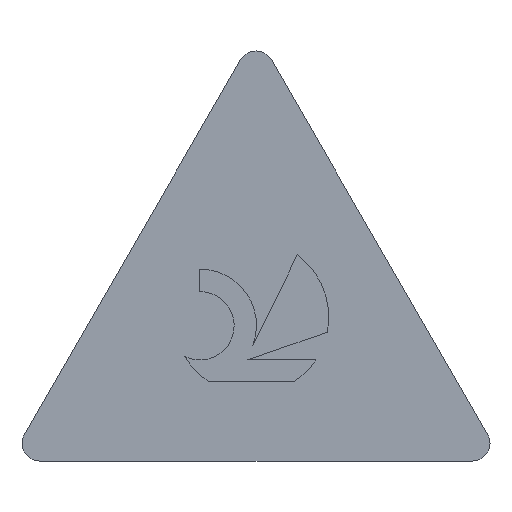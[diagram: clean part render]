
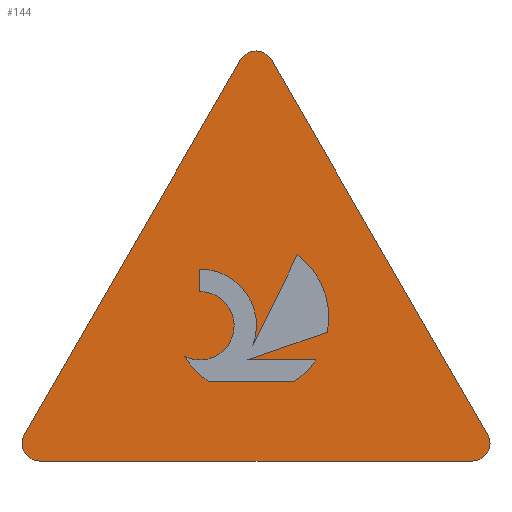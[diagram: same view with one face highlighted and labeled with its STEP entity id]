
A CAD part, top view. The second image highlights one B-rep face of the part: STEP entity #144.
In plain terms, the highlighted planar face has unit normal (0, 0, 1).
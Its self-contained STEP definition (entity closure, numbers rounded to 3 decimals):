
#134=VERTEX_POINT('',#362);
#138=EDGE_CURVE('',#184,#134,#366,.T.);
#144=ADVANCED_FACE('',(#372,#373),#374,.T.);
#156=EDGE_CURVE('',#336,#218,#386,.T.);
#158=VERTEX_POINT('',#388);
#162=VERTEX_POINT('',#393);
#170=VERTEX_POINT('',#402);
#172=VERTEX_POINT('',#404);
#176=EDGE_CURVE('',#314,#250,#408,.T.);
#180=VERTEX_POINT('',#412);
#182=EDGE_CURVE('',#250,#318,#414,.T.);
#184=VERTEX_POINT('',#416);
#200=EDGE_CURVE('',#218,#172,#434,.T.);
#204=EDGE_CURVE('',#162,#158,#438,.T.);
#206=EDGE_CURVE('',#238,#170,#440,.T.);
#210=EDGE_CURVE('',#318,#162,#444,.T.);
#212=EDGE_CURVE('',#172,#272,#446,.T.);
#216=EDGE_CURVE('',#158,#326,#450,.T.);
#218=VERTEX_POINT('',#452);
#238=VERTEX_POINT('',#478);
#246=EDGE_CURVE('',#134,#180,#486,.T.);
#250=VERTEX_POINT('',#490);
#252=EDGE_CURVE('',#284,#238,#492,.T.);
#258=EDGE_CURVE('',#180,#284,#500,.T.);
#260=EDGE_CURVE('',#170,#336,#502,.T.);
#266=EDGE_CURVE('',#280,#184,#509,.T.);
#272=VERTEX_POINT('',#516);
#280=VERTEX_POINT('',#525);
#284=VERTEX_POINT('',#530);
#286=EDGE_CURVE('',#272,#280,#532,.T.);
#288=EDGE_CURVE('',#326,#314,#534,.T.);
#314=VERTEX_POINT('',#562);
#318=VERTEX_POINT('',#566);
#326=VERTEX_POINT('',#575);
#336=VERTEX_POINT('',#585);
#362=CARTESIAN_POINT('',(5.309,2.25,0.0));
#366=LINE('',#608,#609);
#372=FACE_BOUND('',#617,.T.);
#373=FACE_OUTER_BOUND('',#618,.T.);
#374=PLANE('',#619);
#386=CIRCLE('',#639,0.761);
#388=CARTESIAN_POINT('',(0.688,0.0,0.0));
#393=CARTESIAN_POINT('',(0.344,0.595,0.0));
#402=CARTESIAN_POINT('',(3.912,2.329,0.0));
#404=CARTESIAN_POINT('',(4.247,4.27,0.0));
#408=LINE('',#664,#665);
#412=CARTESIAN_POINT('',(6.831,2.25,0.0));
#414=CIRCLE('',#673,0.397);
#416=CARTESIAN_POINT('',(7.087,2.868,0.0));
#434=LINE('',#702,#703);
#438=CIRCLE('',#709,0.397);
#440=CIRCLE('',#712,1.724);
#444=LINE('',#717,#718);
#446=CIRCLE('',#721,1.252);
#450=LINE('',#728,#729);
#452=CARTESIAN_POINT('',(4.247,3.77,0.0));
#478=CARTESIAN_POINT('',(4.457,1.76,0.0));
#486=LINE('',#772,#773);
#490=CARTESIAN_POINT('',(5.843,8.93,0.0));
#492=LINE('',#782,#783);
#500=CIRCLE('',#792,1.724);
#502=CIRCLE('',#795,0.761);
#509=CIRCLE('',#805,1.724);
#516=CARTESIAN_POINT('',(5.426,2.568,0.0));
#525=CARTESIAN_POINT('',(6.422,4.59,0.0));
#530=CARTESIAN_POINT('',(6.336,1.76,0.0));
#532=LINE('',#832,#833);
#534=CIRCLE('',#836,0.397);
#562=CARTESIAN_POINT('',(10.655,0.595,0.0));
#566=CARTESIAN_POINT('',(5.155,8.929,0.0));
#575=CARTESIAN_POINT('',(10.311,0.0,0.0));
#585=CARTESIAN_POINT('',(4.593,3.69,0.0));
#608=CARTESIAN_POINT('',(5.537,2.33,0.0));
#609=VECTOR('',#914,1.0);
#617=EDGE_LOOP('',(#917,#918,#919,#920,#921,#922,#923,#924,#925,#926,#927));
#618=EDGE_LOOP('',(#928,#929,#930,#931,#932,#933));
#619=AXIS2_PLACEMENT_3D('',#934,#935,#936);
#639=AXIS2_PLACEMENT_3D('',#943,#944,#945);
#664=CARTESIAN_POINT('',(10.655,0.596,0.0));
#665=VECTOR('',#967,1.0);
#673=AXIS2_PLACEMENT_3D('',#971,#972,#973);
#702=CARTESIAN_POINT('',(4.247,3.723,0.0));
#703=VECTOR('',#994,1.0);
#709=AXIS2_PLACEMENT_3D('',#998,#999,#1000);
#712=AXIS2_PLACEMENT_3D('',#1001,#1002,#1003);
#717=CARTESIAN_POINT('',(5.155,8.93,0.0));
#718=VECTOR('',#1004,1.0);
#721=AXIS2_PLACEMENT_3D('',#1005,#1006,#1007);
#728=CARTESIAN_POINT('',(0.688,0.0,0.0));
#729=VECTOR('',#1009,1.0);
#772=CARTESIAN_POINT('',(6.165,2.25,0.0));
#773=VECTOR('',#1068,1.0);
#782=CARTESIAN_POINT('',(4.978,1.76,0.0));
#783=VECTOR('',#1070,1.0);
#792=AXIS2_PLACEMENT_3D('',#1089,#1090,#1091);
#795=AXIS2_PLACEMENT_3D('',#1092,#1093,#1094);
#805=AXIS2_PLACEMENT_3D('',#1104,#1105,#1106);
#832=CARTESIAN_POINT('',(6.051,3.838,0.0));
#833=VECTOR('',#1135,1.0);
#836=AXIS2_PLACEMENT_3D('',#1136,#1137,#1138);
#914=DIRECTION('',(-0.945,-0.328,0.0));
#917=ORIENTED_EDGE('',*,*,#200,.T.);
#918=ORIENTED_EDGE('',*,*,#212,.T.);
#919=ORIENTED_EDGE('',*,*,#286,.T.);
#920=ORIENTED_EDGE('',*,*,#266,.T.);
#921=ORIENTED_EDGE('',*,*,#138,.T.);
#922=ORIENTED_EDGE('',*,*,#246,.T.);
#923=ORIENTED_EDGE('',*,*,#258,.T.);
#924=ORIENTED_EDGE('',*,*,#252,.T.);
#925=ORIENTED_EDGE('',*,*,#206,.T.);
#926=ORIENTED_EDGE('',*,*,#260,.T.);
#927=ORIENTED_EDGE('',*,*,#156,.T.);
#928=ORIENTED_EDGE('',*,*,#216,.T.);
#929=ORIENTED_EDGE('',*,*,#288,.T.);
#930=ORIENTED_EDGE('',*,*,#176,.T.);
#931=ORIENTED_EDGE('',*,*,#182,.T.);
#932=ORIENTED_EDGE('',*,*,#210,.T.);
#933=ORIENTED_EDGE('',*,*,#204,.T.);
#934=CARTESIAN_POINT('',(5.499,3.175,0.0));
#935=DIRECTION('',(0.0,0.0,1.0));
#936=DIRECTION('',(1.0,0.0,0.0));
#943=CARTESIAN_POINT('',(4.252,3.009,0.0));
#944=DIRECTION('',(0.0,0.0,1.0));
#945=DIRECTION('',(-0.447,-0.894,0.0));
#967=DIRECTION('',(-0.5,0.866,0.0));
#971=CARTESIAN_POINT('',(5.499,8.731,0.0));
#972=DIRECTION('',(0.0,-0.0,1.0));
#973=DIRECTION('',(0.866,0.5,0.0));
#994=DIRECTION('',(0.0,1.0,0.0));
#998=CARTESIAN_POINT('',(0.688,0.397,0.0));
#999=DIRECTION('',(0.0,0.0,1.0));
#1000=DIRECTION('',(-0.866,0.5,0.0));
#1001=CARTESIAN_POINT('',(5.396,3.205,0.0));
#1002=DIRECTION('',(-0.0,0.0,-1.0));
#1003=DIRECTION('',(-0.861,-0.508,0.0));
#1004=DIRECTION('',(-0.5,-0.866,0.0));
#1005=CARTESIAN_POINT('',(4.257,3.018,0.0));
#1006=DIRECTION('',(0.0,-0.0,-1.0));
#1007=DIRECTION('',(0.933,-0.359,0.0));
#1009=DIRECTION('',(1.0,0.0,0.0));
#1068=DIRECTION('',(1.0,0.0,0.0));
#1070=DIRECTION('',(-1.0,0.0,0.0));
#1089=CARTESIAN_POINT('',(5.396,3.205,0.0));
#1090=DIRECTION('',(0.0,-0.0,-1.0));
#1091=DIRECTION('',(0.545,-0.838,0.0));
#1092=CARTESIAN_POINT('',(4.252,3.009,0.0));
#1093=DIRECTION('',(0.0,0.0,1.0));
#1094=DIRECTION('',(-0.447,-0.894,0.0));
#1104=CARTESIAN_POINT('',(5.396,3.205,0.0));
#1105=DIRECTION('',(0.0,-0.0,-1.0));
#1106=DIRECTION('',(0.981,-0.196,0.0));
#1135=DIRECTION('',(0.442,0.897,-0.0));
#1136=CARTESIAN_POINT('',(10.311,0.397,0.0));
#1137=DIRECTION('',(0.0,0.0,1.0));
#1138=DIRECTION('',(0.,-1.0,0.0));
